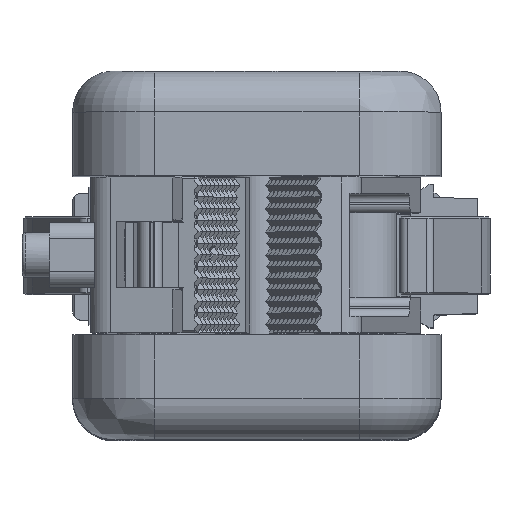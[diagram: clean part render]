
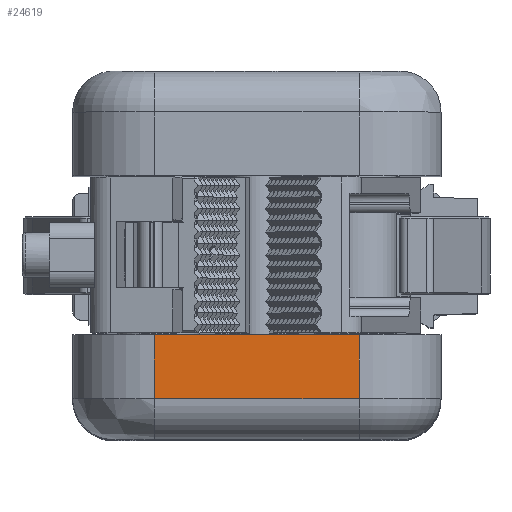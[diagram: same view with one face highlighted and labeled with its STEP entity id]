
A CAD part, top view. The second image highlights one B-rep face of the part: STEP entity #24619.
In plain terms, the highlighted planar face has unit normal (0, 0, 1).
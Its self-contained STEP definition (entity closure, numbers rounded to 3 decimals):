
#389=LINE('',#55472,#3502);
#390=LINE('',#55475,#3503);
#391=LINE('',#55477,#3504);
#392=LINE('',#55479,#3505);
#3502=VECTOR('',#46882,1.);
#3503=VECTOR('',#46883,1.);
#3504=VECTOR('',#46884,1.);
#3505=VECTOR('',#46885,1.);
#21080=PLANE('',#43961);
#22814=FACE_OUTER_BOUND('',#27458,.T.);
#24619=ADVANCED_FACE('',(#22814),#21080,.F.);
#27458=EDGE_LOOP('',(#29963,#29964,#29965,#29966));
#29963=ORIENTED_EDGE('',*,*,#39616,.T.);
#29964=ORIENTED_EDGE('',*,*,#39617,.T.);
#29965=ORIENTED_EDGE('',*,*,#39618,.T.);
#29966=ORIENTED_EDGE('',*,*,#39619,.T.);
#37583=VERTEX_POINT('',#55473);
#37584=VERTEX_POINT('',#55474);
#37585=VERTEX_POINT('',#55476);
#37586=VERTEX_POINT('',#55478);
#39616=EDGE_CURVE('',#37583,#37584,#389,.T.);
#39617=EDGE_CURVE('',#37584,#37585,#390,.T.);
#39618=EDGE_CURVE('',#37585,#37586,#391,.T.);
#39619=EDGE_CURVE('',#37586,#37583,#392,.T.);
#43961=AXIS2_PLACEMENT_3D('',#55480,#46886,#46887);
#46882=DIRECTION('',(1.,0.,0.));
#46883=DIRECTION('',(0.,1.,0.));
#46884=DIRECTION('',(-1.,0.,0.));
#46885=DIRECTION('',(0.,-1.,0.));
#46886=DIRECTION('',(0.,0.,-1.));
#46887=DIRECTION('',(-1.,0.,0.));
#55472=CARTESIAN_POINT('',(22.5,-17.5,203.));
#55473=CARTESIAN_POINT('',(-12.5,-17.5,203.));
#55474=CARTESIAN_POINT('',(12.5,-17.5,203.));
#55475=CARTESIAN_POINT('',(12.5,-22.5,203.));
#55476=CARTESIAN_POINT('',(12.5,-9.7,203.));
#55477=CARTESIAN_POINT('',(-22.5,-9.7,203.));
#55478=CARTESIAN_POINT('',(-12.5,-9.7,203.));
#55479=CARTESIAN_POINT('',(-12.5,-22.5,203.));
#55480=CARTESIAN_POINT('',(-22.5,-22.5,203.));
